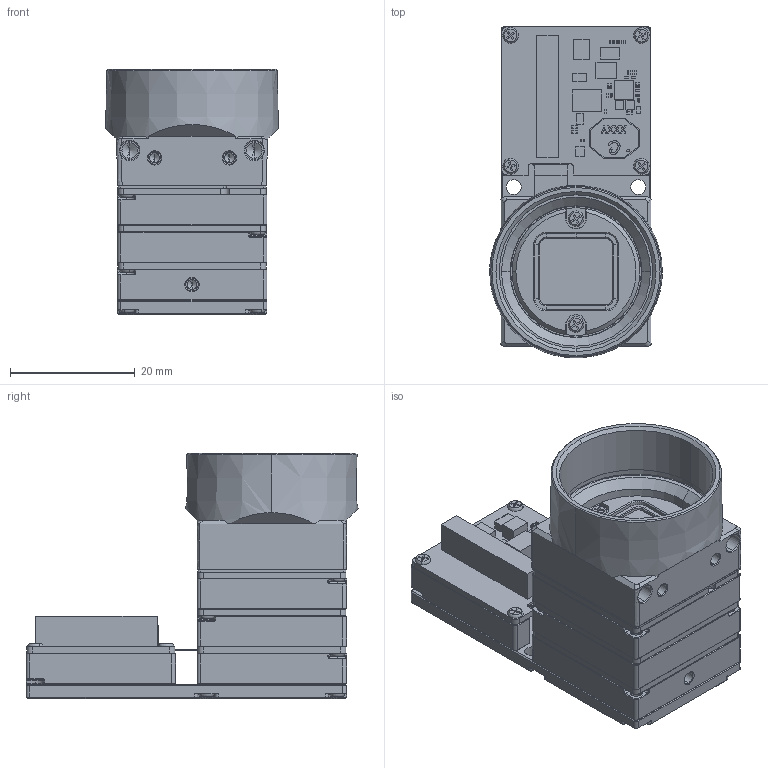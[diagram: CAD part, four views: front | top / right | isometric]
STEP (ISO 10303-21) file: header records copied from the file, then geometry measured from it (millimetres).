
FILE_DESCRIPTION (( 'STEP AP203' ), '1' );
FILE_NAME ('408-379-A_FFC_180.STEP', '2023-03-02T07:46:59', ( '' ), ( '' ), 'SwSTEP 2.0', 'SolidWorks 2021', '' );
FILE_SCHEMA (( 'CONFIG_CONTROL_DESIGN' ));
Products named in the file (1): 408-379-A_FFC_180
Bounding box: 27.72 x 53.29 x 39.35 mm (x, y, z)
Volume: 11621 mm3; surface area: 21276.2 mm2
Topology: 74 solids, 74 shells, 5205 faces, 13159 edges, 7953 vertices
Faces by surface type: plane 2741, cylinder 1379, cone 435, bspline 365, torus 195, sphere 90
Entity records: 159974 total; most frequent: CARTESIAN_POINT 37170, ORIENTED_EDGE 25794, DIRECTION 25140, EDGE_CURVE 12897, LINE 8672, VECTOR 8672, AXIS2_PLACEMENT_3D 8234, VERTEX_POINT 7943
